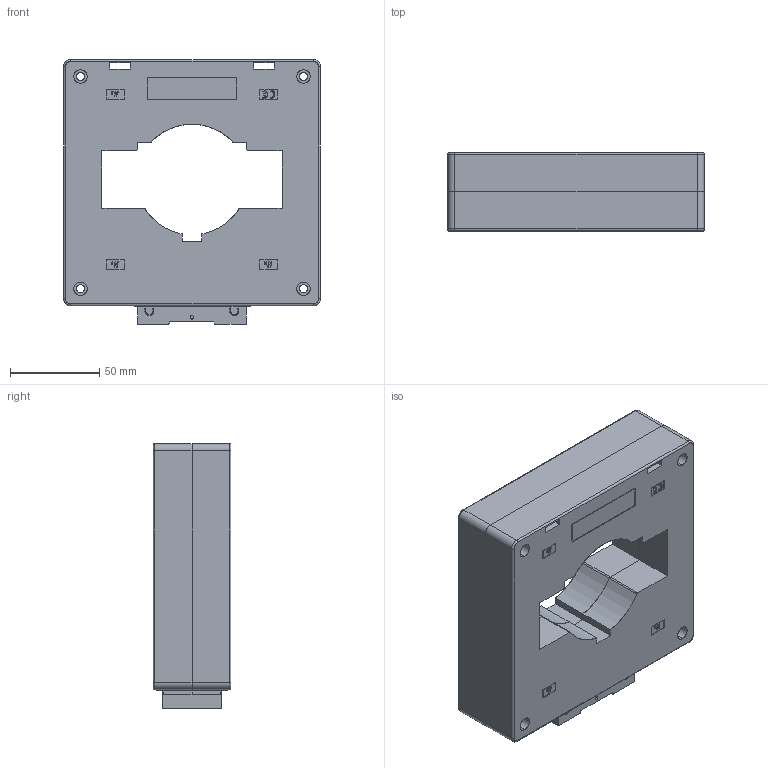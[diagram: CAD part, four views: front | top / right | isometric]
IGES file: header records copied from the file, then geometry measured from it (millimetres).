
Start section: SolidWorks IGES file using analytic representation for surfaces
Bounding box: 144 x 43.7 x 148.5 mm (x, y, z)
Surface area: 160956.7 mm2 (no closed solid volume)
Topology: 0 solids, 0 shells, 1234 faces, 12735 edges, 12735 vertices
Faces by surface type: bspline 880, revolution 354
